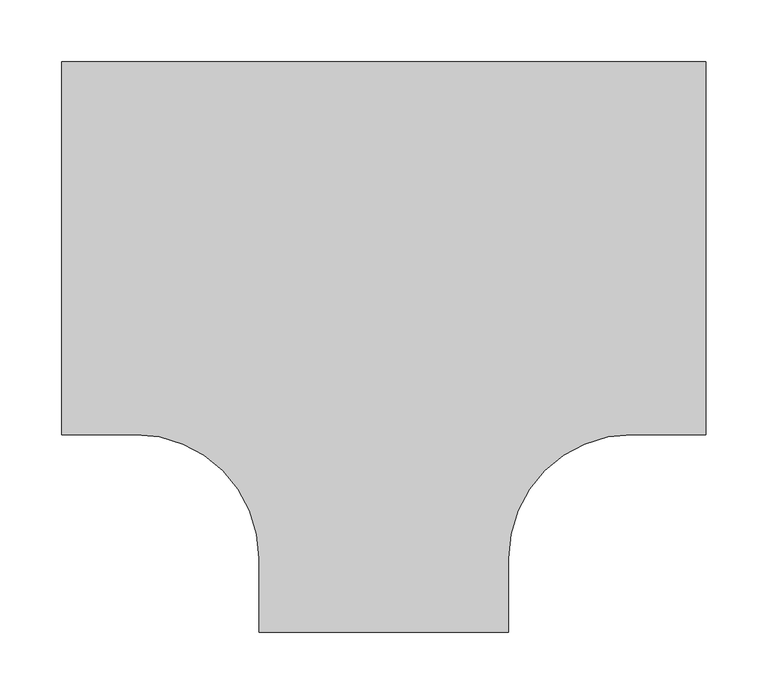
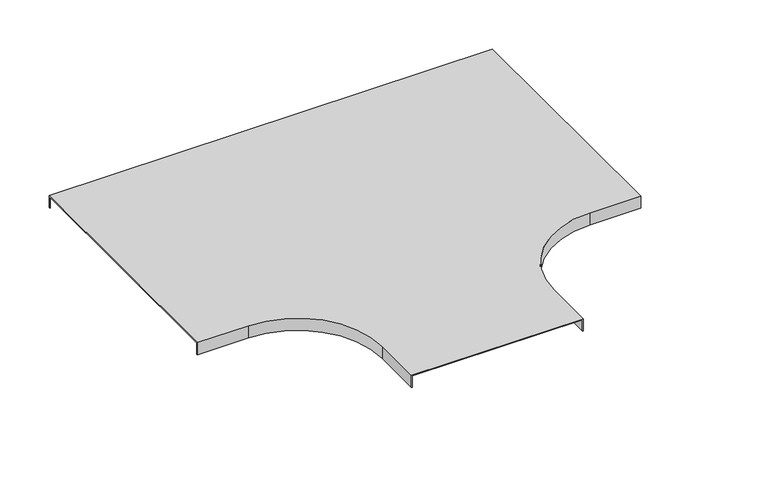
"""IFC4 building model written with IfcOpenShell, lengths in millimetres: proxy geometry, Cable_Tray_Cover_TTERC_Basortray : Basortray TTERC 300-GC."""

from ifc_helpers import new_model, si_unit, frame, origin, place, context, project, spatial, polyline, circle_curve, source, transform, mapped, element, save
from ifc_brep_helpers import plane_surface, cylinder_surface, revolved_surface, advanced_brep


def generic_models_f5429365(model_context):
    return source(origin(), model_context, "Body", "AdvancedBrep", [
        advanced_brep(
        [(261.0, 302.0, 1.0), (-261.0, 302.0, 1.0), (-261.0, 0.0, 1.0), (-201.0, 0.0, 1.0), (-101.0, -100.0, 1.0), (-101.0, -160.0, 1.0), (101.0, -160.0, 1.0), (101.0, -100.0, 1.0), (201.0, 0.0, 1.0), (261.0, 0.0, 1.0), (261.0, 0.0, -14.0), (201.0, 0.0, -14.0), (101.0, -100.0, -14.0), (101.0, -160.0, -14.0), (100.0, -160.0, -14.0), (100.0, -100.0, -14.0), (201.0, 1.0, -14.0), (261.0, 1.0, -14.0), (-101.0, -160.0, -14.0), (-101.0, -100.0, -14.0), (-201.0, 0.0, -14.0), (-261.0, 0.0, -14.0), (-261.0, 1.0, -14.0), (-201.0, 1.0, -14.0), (-100.0, -100.0, -14.0), (-100.0, -160.0, -14.0), (260.0, 302.0, -14.0), (261.0, 302.0, -14.0), (261.0, 301.0, -14.0), (260.0, 301.0, -14.0), (-261.0, 302.0, -14.0), (-260.0, 302.0, -14.0), (-260.0, 301.0, -14.0), (-261.0, 301.0, -14.0), (260.0, 302.0, 0.0), (-260.0, 302.0, 0.0), (-261.0, 301.0, 0.0), (-261.0, 1.0, 0.0), (-100.0, -160.0, 0.0), (100.0, -160.0, 0.0), (261.0, 1.0, 0.0), (261.0, 301.0, 0.0), (201.0, 1.0, 0.0), (100.0, -100.0, 0.0), (-100.0, -100.0, 0.0), (-201.0, 1.0, 0.0), (-260.0, 301.0, 0.0), (260.0, 301.0, 0.0)],
        [
            (0, 1),
            (1, 2),
            (2, 3),
            (3, 4, circle_curve(frame((-201.0, -100.0, 1.0), z_axis=(0.0, 0.0, -1.0), x_axis=(1.0, 0.0, 0.0)), 100.0)),
            (4, 5),
            (5, 6),
            (6, 7),
            (7, 8, circle_curve(frame((201.0, -100.0, 1.0), z_axis=(0.0, 0.0, -1.0), x_axis=(1.0, 0.0, 0.0)), 100.0)),
            (8, 9),
            (9, 0),
            (10, 11),
            (11, 12, circle_curve(frame((201.0, -100.0, -14.0), z_axis=(0.0, 0.0, 1.0), x_axis=(1.0, 0.0, 0.0)), 100.0)),
            (12, 13),
            (13, 14),
            (14, 15),
            (15, 16, circle_curve(frame((201.0, -100.0, -14.0), z_axis=(0.0, 0.0, -1.0), x_axis=(1.0, 0.0, 0.0)), 101.0)),
            (16, 17),
            (17, 10),
            (18, 19),
            (19, 20, circle_curve(frame((-201.0, -100.0, -14.0), z_axis=(0.0, 0.0, 1.0), x_axis=(1.0, 0.0, 0.0)), 100.0)),
            (20, 21),
            (21, 22),
            (22, 23),
            (23, 24, circle_curve(frame((-201.0, -100.0, -14.0), z_axis=(0.0, 0.0, -1.0), x_axis=(1.0, 0.0, 0.0)), 101.0)),
            (24, 25),
            (25, 18),
            (26, 27),
            (27, 28),
            (28, 29),
            (29, 26),
            (30, 31),
            (31, 32),
            (32, 33),
            (33, 30),
            (0, 27),
            (26, 34),
            (34, 35),
            (35, 31),
            (30, 1),
            (33, 36),
            (36, 37),
            (37, 22),
            (21, 2),
            (20, 3),
            (19, 4),
            (18, 5),
            (25, 38),
            (38, 39),
            (39, 14),
            (13, 6),
            (12, 7),
            (11, 8),
            (10, 9),
            (17, 40),
            (40, 41),
            (41, 28),
            (42, 43, circle_curve(frame((201.0, -100.0, 0.0), z_axis=(0.0, 0.0, 1.0), x_axis=(1.0, 0.0, 0.0)), 101.0)),
            (43, 39),
            (38, 44),
            (44, 45, circle_curve(frame((-201.0, -100.0, 0.0), z_axis=(0.0, 0.0, 1.0), x_axis=(1.0, 0.0, 0.0)), 101.0)),
            (45, 37),
            (36, 46),
            (46, 35),
            (34, 47),
            (47, 41),
            (40, 42),
            (45, 23),
            (44, 24),
            (43, 15),
            (42, 16),
            (29, 47),
            (46, 32),
        ],
        [
            plane_surface(frame((-261.0, 302.0, 1.0), z_axis=(0.0, 0.0, 1.0), x_axis=(-1.0, 0.0, 0.0))),
            plane_surface(frame((-261.0, 302.0, -14.0), z_axis=(0.0, 0.0, -1.0), x_axis=(1.0, 0.0, 0.0))),
            plane_surface(frame((261.0, 302.0, 1.0), z_axis=(0.0, 1.0, 0.0), x_axis=(0.0, 0.0, -1.0))),
            plane_surface(frame((-261.0, 302.0, 1.0), z_axis=(-1.0, 0.0, 0.0), x_axis=(0.0, 0.0, -1.0))),
            plane_surface(frame((-261.0, 0.0, 1.0), z_axis=(0.0, -1.0, 0.0), x_axis=(0.0, 0.0, -1.0))),
            revolved_surface(polyline([(-101.0, -100.0, -14.0), (-101.0, -100.0, 1.0)]), (-201.0, -100.0, -14.0), (0.0, 0.0, -1.0)),
            plane_surface(frame((-101.0, -100.0, 1.0), z_axis=(-1.0, 0.0, 0.0), x_axis=(0.0, 0.0, -1.0))),
            plane_surface(frame((-101.0, -160.0, 1.0), z_axis=(0.0, -1.0, 0.0), x_axis=(0.0, 0.0, -1.0))),
            plane_surface(frame((101.0, -160.0, 1.0), z_axis=(1.0, 0.0, 0.0), x_axis=(0.0, 0.0, -1.0))),
            revolved_surface(polyline([(301.0, -100.0, -14.0), (301.0, -100.0, 1.0)]), (201.0, -100.0, -14.0), (0.0, 0.0, -1.0)),
            plane_surface(frame((201.0, 0.0, 1.0), z_axis=(0.0, -1.0, 0.0), x_axis=(0.0, 0.0, -1.0))),
            plane_surface(frame((261.0, 0.0, 1.0), z_axis=(1.0, 0.0, 0.0), x_axis=(0.0, 0.0, -1.0))),
            plane_surface(frame((-260.0, 1.0, 0.0), z_axis=(0.0, 0.0, -1.0), x_axis=(1.0, 0.0, 0.0))),
            plane_surface(frame((-260.0, 1.0, 0.0), z_axis=(0.0, 1.0, 0.0), x_axis=(0.0, 0.0, -1.0))),
            cylinder_surface(frame((-201.0, -100.0, -14.0), z_axis=(0.0, 0.0, -1.0), x_axis=(1.0, 0.0, 0.0)), 101.0),
            plane_surface(frame((-100.0, -100.0, 0.0), z_axis=(1.0, 0.0, 0.0), x_axis=(0.0, 0.0, -1.0))),
            plane_surface(frame((100.0, -159.0, 0.0), z_axis=(-1.0, 0.0, 0.0), x_axis=(0.0, 0.0, -1.0))),
            cylinder_surface(frame((201.0, -100.0, -14.0), z_axis=(0.0, 0.0, -1.0), x_axis=(1.0, 0.0, 0.0)), 101.0),
            plane_surface(frame((201.0, 1.0, 0.0), z_axis=(0.0, 1.0, 0.0), x_axis=(0.0, 0.0, -1.0))),
            plane_surface(frame((260.0, 1.0, 0.0), z_axis=(-1.0, 0.0, 0.0), x_axis=(0.0, 0.0, -1.0))),
            plane_surface(frame((-260.0, 302.0, 0.0), z_axis=(1.0, 0.0, 0.0), x_axis=(0.0, 0.0, -1.0))),
            plane_surface(frame((261.0, 301.0, 0.0), z_axis=(0.0, -1.0, 0.0), x_axis=(0.0, 0.0, -1.0))),
        ],
        [
            (0, [[1, 2, 3, 4, 5, 6, 7, 8, 9, 10]]),
            (1, [[11, 12, 13, 14, 15, 16, 17, 18]]),
            (1, [[19, 20, 21, 22, 23, 24, 25, 26]]),
            (1, [[27, 28, 29, 30]]),
            (1, [[31, 32, 33, 34]]),
            (2, [[-1, 35, -27, 36, 37, 38, -31, 39]]),
            (3, [[-2, -39, -34, 40, 41, 42, -22, 43]]),
            (4, [[-3, -43, -21, 44]]),
            (5, [[-4, -44, -20, 45]]),
            (6, [[-5, -45, -19, 46]]),
            (7, [[-6, -46, -26, 47, 48, 49, -14, 50]]),
            (8, [[-7, -50, -13, 51]]),
            (9, [[-8, -51, -12, 52]]),
            (10, [[-9, -52, -11, 53]]),
            (11, [[-10, -53, -18, 54, 55, 56, -28, -35]]),
            (12, [[57, 58, -48, 59, 60, 61, -41, 62, 63, -37, 64, 65, -55, 66]]),
            (13, [[-61, 67, -23, -42]]),
            (14, [[-60, 68, -24, -67]]),
            (15, [[-59, -47, -25, -68]]),
            (16, [[-58, 69, -15, -49]]),
            (17, [[-57, 70, -16, -69]]),
            (18, [[-66, -54, -17, -70]]),
            (19, [[-36, -30, 71, -64]]),
            (20, [[-38, -63, 72, -32]]),
            (21, [[-62, -40, -33, -72]]),
            (21, [[-65, -71, -29, -56]]),
        ],
    ),
    ])


if __name__ == "__main__":
    model = new_model("IFC4")
    model_context = context("Model", 3, world=origin())
    ifc_project = project(units=[si_unit("LENGTHUNIT", "METRE", prefix="MILLI")], contexts=[model_context])
    site = spatial("IfcSite", under=ifc_project)
    building = spatial("IfcBuilding", under=site)
    placement = place(None, origin())
    generic_models_shape = generic_models_f5429365(model_context)
    element("IfcBuildingElementProxy", 1, Name="Cable_Tray_Cover_TTERC_Basortray : Basortray TTERC 300-GC", ObjectType="Cable_Tray_Cover_TTERC_Basortray : Basortray TTERC 300-GC", at=placement, inside=building, context=model_context, shape_type="MappedRepresentation", body=[
        mapped(generic_models_shape, transform((0.0, 0.0, 0.0), x_axis=(1.0, 0.0, 0.0), y_axis=(0.0, 1.0, 0.0), z_axis=(0.0, 0.0, 1.0))),
    ])
    save(model, "model.ifc")
